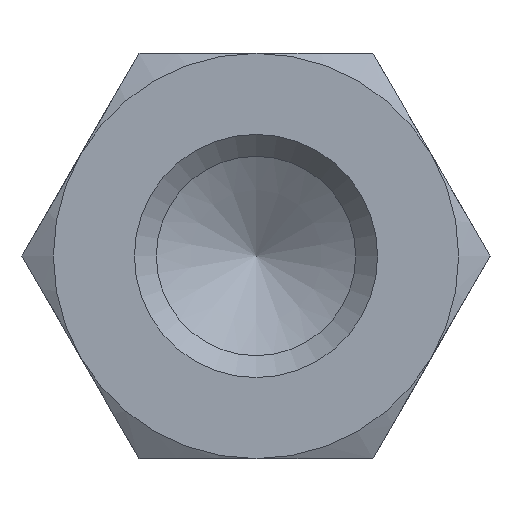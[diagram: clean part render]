
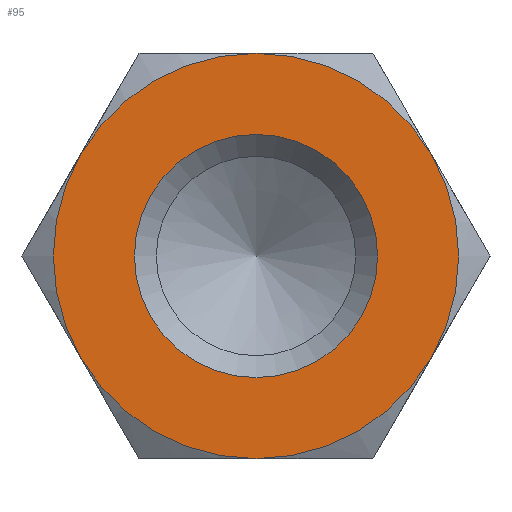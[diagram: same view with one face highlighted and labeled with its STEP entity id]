
A CAD part, left-side view. The second image highlights one B-rep face of the part: STEP entity #95.
In plain terms, the highlighted planar face has unit normal (-1, 0, 0).
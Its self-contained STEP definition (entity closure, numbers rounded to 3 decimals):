
#95 = ADVANCED_FACE( '', ( #147, #148 ), #149, .F. );
#147 = FACE_OUTER_BOUND( '', #206, .T. );
#148 = FACE_BOUND( '', #207, .T. );
#149 = PLANE( '', #208 );
#206 = EDGE_LOOP( '', ( #356, #357, #358, #359, #360, #361 ) );
#207 = EDGE_LOOP( '', ( #362 ) );
#208 = AXIS2_PLACEMENT_3D( '', #363, #364, #365 );
#356 = ORIENTED_EDGE( '', *, *, #440, .F. );
#357 = ORIENTED_EDGE( '', *, *, #425, .F. );
#358 = ORIENTED_EDGE( '', *, *, #441, .F. );
#359 = ORIENTED_EDGE( '', *, *, #437, .F. );
#360 = ORIENTED_EDGE( '', *, *, #442, .F. );
#361 = ORIENTED_EDGE( '', *, *, #443, .F. );
#362 = ORIENTED_EDGE( '', *, *, #439, .T. );
#363 = CARTESIAN_POINT( '', ( -20., 0., 0. ) );
#364 = DIRECTION( '', ( 1., 0., 0. ) );
#365 = DIRECTION( '', ( 0., 0., -1. ) );
#425 = EDGE_CURVE( '', #495, #493, #497, .T. );
#437 = EDGE_CURVE( '', #447, #506, #513, .T. );
#439 = EDGE_CURVE( '', #516, #516, #517, .T. );
#440 = EDGE_CURVE( '', #493, #486, #518, .T. );
#441 = EDGE_CURVE( '', #506, #495, #519, .T. );
#442 = EDGE_CURVE( '', #481, #447, #520, .T. );
#443 = EDGE_CURVE( '', #486, #481, #521, .T. );
#447 = VERTEX_POINT( '', #525 );
#481 = VERTEX_POINT( '', #601 );
#486 = VERTEX_POINT( '', #617 );
#493 = VERTEX_POINT( '', #642 );
#495 = VERTEX_POINT( '', #647 );
#497 = CIRCLE( '', #654, 5. );
#506 = VERTEX_POINT( '', #680 );
#513 = CIRCLE( '', #717, 5. );
#516 = VERTEX_POINT( '', #720 );
#517 = CIRCLE( '', #721, 3. );
#518 = CIRCLE( '', #722, 5. );
#519 = CIRCLE( '', #723, 5. );
#520 = CIRCLE( '', #724, 5. );
#521 = CIRCLE( '', #725, 5. );
#525 = CARTESIAN_POINT( '', ( -20., -4.33, 2.5 ) );
#601 = CARTESIAN_POINT( '', ( -20., 0., 5. ) );
#617 = CARTESIAN_POINT( '', ( -20., 4.33, 2.5 ) );
#642 = CARTESIAN_POINT( '', ( -20., 4.33, -2.5 ) );
#647 = CARTESIAN_POINT( '', ( -20., 0., -5. ) );
#654 = AXIS2_PLACEMENT_3D( '', #760, #761, #762 );
#680 = CARTESIAN_POINT( '', ( -20., -4.33, -2.5 ) );
#717 = AXIS2_PLACEMENT_3D( '', #765, #766, #767 );
#720 = CARTESIAN_POINT( '', ( -20., 0., -3. ) );
#721 = AXIS2_PLACEMENT_3D( '', #771, #772, #773 );
#722 = AXIS2_PLACEMENT_3D( '', #774, #775, #776 );
#723 = AXIS2_PLACEMENT_3D( '', #777, #778, #779 );
#724 = AXIS2_PLACEMENT_3D( '', #780, #781, #782 );
#725 = AXIS2_PLACEMENT_3D( '', #783, #784, #785 );
#760 = CARTESIAN_POINT( '', ( -20., 0., 0. ) );
#761 = DIRECTION( '', ( 1., 0., 0. ) );
#762 = DIRECTION( '', ( 0., 0., -1. ) );
#765 = CARTESIAN_POINT( '', ( -20., 0., 0. ) );
#766 = DIRECTION( '', ( 1., 0., 0. ) );
#767 = DIRECTION( '', ( 0., 0., -1. ) );
#771 = CARTESIAN_POINT( '', ( -20., 0., 0. ) );
#772 = DIRECTION( '', ( 1., 0., 0. ) );
#773 = DIRECTION( '', ( 0., 0., -1. ) );
#774 = CARTESIAN_POINT( '', ( -20., 0., 0. ) );
#775 = DIRECTION( '', ( 1., 0., 0. ) );
#776 = DIRECTION( '', ( 0., 0., -1. ) );
#777 = CARTESIAN_POINT( '', ( -20., 0., 0. ) );
#778 = DIRECTION( '', ( 1., 0., 0. ) );
#779 = DIRECTION( '', ( 0., 0., -1. ) );
#780 = CARTESIAN_POINT( '', ( -20., 0., 0. ) );
#781 = DIRECTION( '', ( 1., 0., 0. ) );
#782 = DIRECTION( '', ( 0., 0., -1. ) );
#783 = CARTESIAN_POINT( '', ( -20., 0., 0. ) );
#784 = DIRECTION( '', ( 1., 0., 0. ) );
#785 = DIRECTION( '', ( 0., 0., -1. ) );
